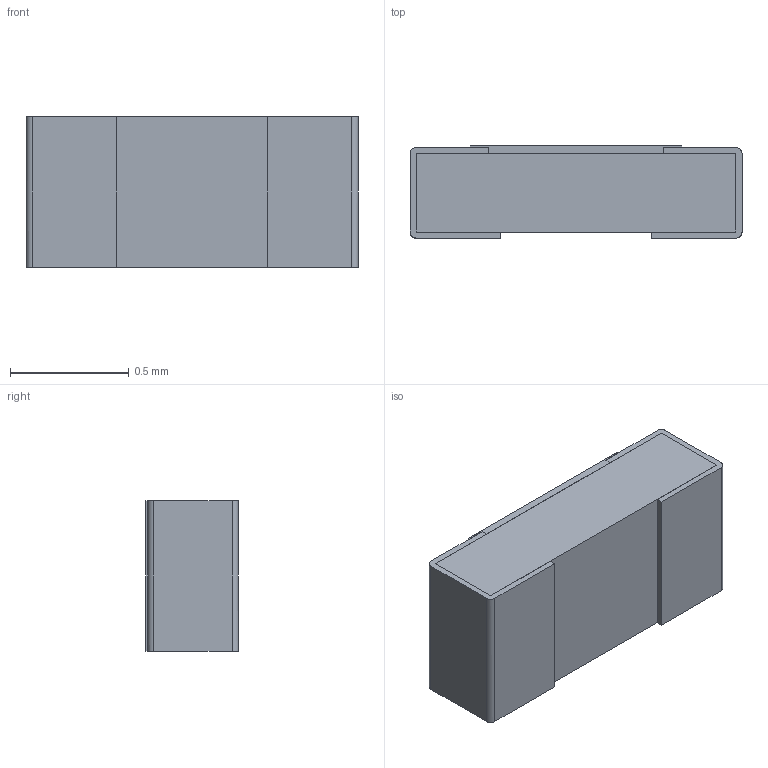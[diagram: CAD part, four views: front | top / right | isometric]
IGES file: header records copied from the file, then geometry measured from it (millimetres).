
Global section: file name: PTN0502; native system: Autodesk Inventor LT ; preprocessor: unknown; author: Neil; date: 20200108.145533; units: inch
Bounding box: 1.4 x 0.39 x 0.64 mm (x, y, z)
Volume: 0.3 mm3; surface area: 7.7 mm2
Topology: 5 solids, 5 shells, 82 faces, 216 edges, 144 vertices
Faces by surface type: bspline 82
